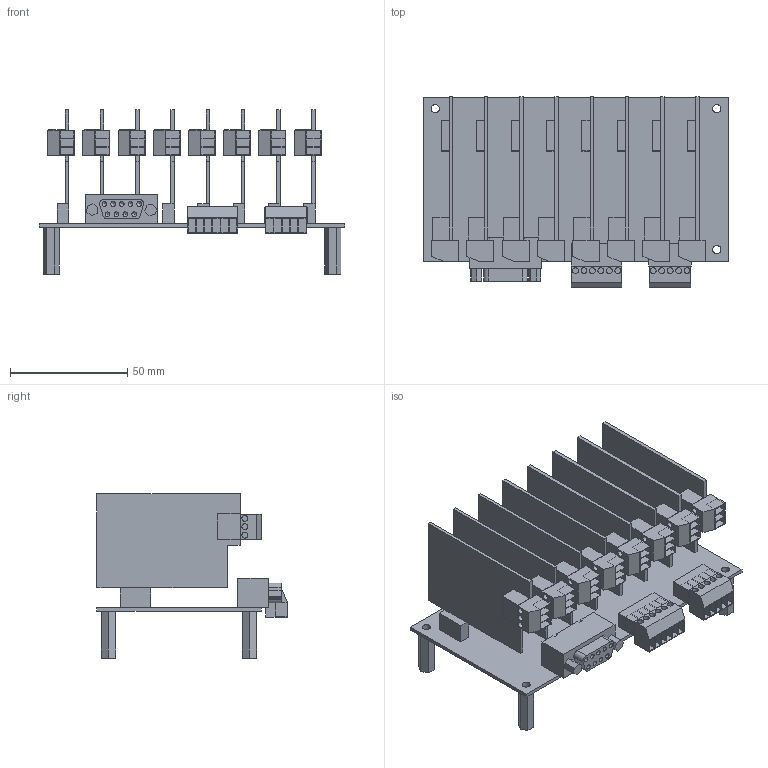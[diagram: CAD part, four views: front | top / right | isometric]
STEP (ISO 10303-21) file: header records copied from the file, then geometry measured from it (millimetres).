
FILE_DESCRIPTION(/* description */ (''),/* implementation_level */ '2;1');
FILE_NAME(/* name */ 'D:\Backup\NEW_ORG\LED\IndustrialLED\DRW\SmartLED_MB2.0_1224.stp',/* time_stamp */ '2023-04-03T09:44:44+08:00',/* author */ ('USER'),/* organization */ (''),/* preprocessor_version */ 'ST-DEVELOPER v16.1',/* originating_system */ 'Autodesk Inventor 2016',/* authorisation */ '');
FILE_SCHEMA (('AUTOMOTIVE_DESIGN { 1 0 10303 214 3 1 1 }'));
Length unit declared in the file: millimetre
Products named in the file (5): Layout; suck3; suck5; suck6; SmartLED
Assembly tree (11 placements, depth 2):
  SmartLED
    Layout
    suck3  x8
    suck5
    suck6
Bounding box: 130 x 81 x 70 mm (x, y, z)
Volume: 69859.7 mm3; surface area: 80499.6 mm2
Topology: 11 solids, 11 shells, 655 faces, 1584 edges, 1047 vertices
Faces by surface type: plane 594, cylinder 52, cone 9
Full cylindrical faces by diameter (mm): 2 x9, 2.5 x35, 3.5 x4
Entity records: 13426 total; most frequent: CARTESIAN_POINT 2344, ORIENTED_EDGE 2230, DIRECTION 2127, EDGE_CURVE 1115, LINE 1053, VECTOR 1053, VERTEX_POINT 754, EDGE_LOOP 557
